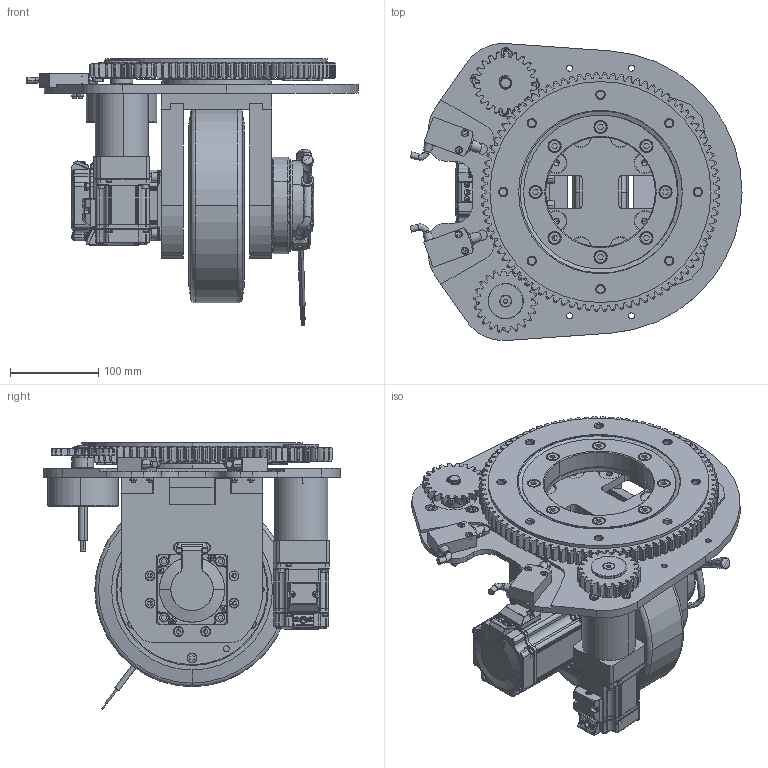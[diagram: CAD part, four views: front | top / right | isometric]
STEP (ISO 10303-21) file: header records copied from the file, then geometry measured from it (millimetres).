
FILE_DESCRIPTION (( 'STEP AP214' ), '1' );
FILE_NAME ('TEC-220P750S-48HS.STEP', '2021-07-08T06:29:51', ( 'admin' ), ( 'Microsoft' ), 'SwSTEP 2.0', 'SolidWorks 2012', '' );
FILE_SCHEMA (( 'AUTOMOTIVE_DESIGN' ));
Length unit declared in the file: millimetre
Products named in the file (1): TEC-220P750S-48HS
Bounding box: 375.46 x 335.88 x 301.52 mm (x, y, z)
Surface area: 808863.8 mm2 (no closed solid volume)
Topology: 0 solids, 223 shells, 2821 faces, 9928 edges, 7114 vertices
Faces by surface type: cylinder 1381, plane 777, cone 352, bspline 251, torus 58, sphere 2
Entity records: 170322 total; most frequent: CARTESIAN_POINT 55896, DIRECTION 17901, ORIENTED_EDGE 15465, EDGE_CURVE 9900, VERTEX_POINT 7114, AXIS2_PLACEMENT_3D 6925, CIRCLE 4354, VECTOR 4051
